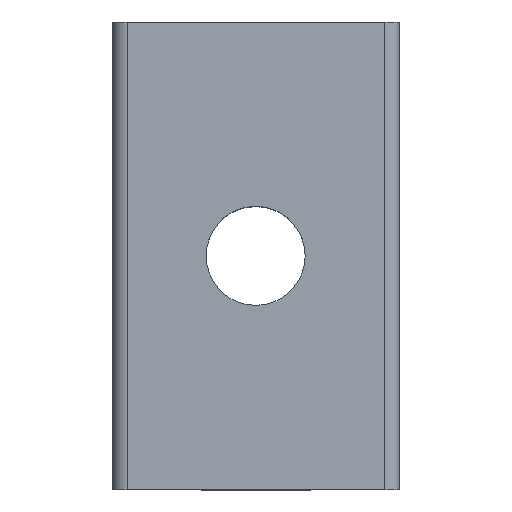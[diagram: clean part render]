
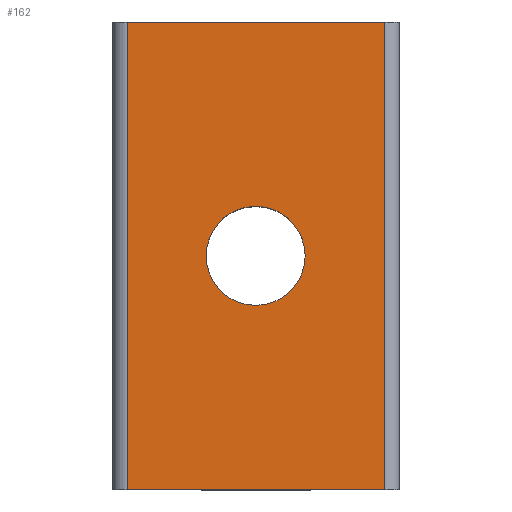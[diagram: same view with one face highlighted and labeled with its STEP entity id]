
A CAD part, top view. The second image highlights one B-rep face of the part: STEP entity #162.
In plain terms, the highlighted planar face has unit normal (0, 0, 1).
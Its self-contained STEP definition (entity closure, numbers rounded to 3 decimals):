
#17 = VECTOR ( 'NONE', #407, 1000. ) ;
#18 = DIRECTION ( 'NONE',  ( 0., 1., 0. ) ) ;
#19 = DIRECTION ( 'NONE',  ( 1., 0., 0. ) ) ;
#20 = DIRECTION ( 'NONE',  ( 0., 0., -1. ) ) ;
#27 = AXIS2_PLACEMENT_3D ( 'NONE', #212, #20, #255 ) ;
#28 = CARTESIAN_POINT ( 'NONE',  ( -4.288, 7.8, 0. ) ) ;
#30 = LINE ( 'NONE', #88, #206 ) ;
#31 = CARTESIAN_POINT ( 'NONE',  ( -1.662, 0., 0. ) ) ;
#46 = EDGE_LOOP ( 'NONE', ( #278, #424, #151, #283 ) ) ;
#50 = CARTESIAN_POINT ( 'NONE',  ( 1.638, 0., 0. ) ) ;
#59 = VERTEX_POINT ( 'NONE', #31 ) ;
#61 = VERTEX_POINT ( 'NONE', #28 ) ;
#88 = CARTESIAN_POINT ( 'NONE',  ( -4.288, -7.8, 0. ) ) ;
#90 = EDGE_LOOP ( 'NONE', ( #380, #313 ) ) ;
#91 = FACE_OUTER_BOUND ( 'NONE', #46, .T. ) ;
#99 = EDGE_CURVE ( 'NONE', #412, #111, #30, .T. ) ;
#101 = LINE ( 'NONE', #405, #287 ) ;
#102 = EDGE_CURVE ( 'NONE', #303, #61, #101, .T. ) ;
#107 = CARTESIAN_POINT ( 'NONE',  ( -0.012, 0., 0. ) ) ;
#111 = VERTEX_POINT ( 'NONE', #155 ) ;
#119 = EDGE_CURVE ( 'NONE', #412, #303, #297, .T. ) ;
#141 = DIRECTION ( 'NONE',  ( 1., 0., 0. ) ) ;
#151 = ORIENTED_EDGE ( 'NONE', *, *, #99, .F. ) ;
#155 = CARTESIAN_POINT ( 'NONE',  ( -4.288, -7.8, 0. ) ) ;
#159 = VECTOR ( 'NONE', #18, 1000. ) ;
#162 = ADVANCED_FACE ( 'NONE', ( #280, #91 ), #173, .F. ) ;
#173 = PLANE ( 'NONE',  #27 ) ;
#189 = CARTESIAN_POINT ( 'NONE',  ( 4.288, -7.8, 0. ) ) ;
#192 = VERTEX_POINT ( 'NONE', #50 ) ;
#202 = AXIS2_PLACEMENT_3D ( 'NONE', #107, #359, #141 ) ;
#206 = VECTOR ( 'NONE', #337, 1000. ) ;
#208 = CARTESIAN_POINT ( 'NONE',  ( 4.288, -7.8, 0. ) ) ;
#210 = DIRECTION ( 'NONE',  ( 0., 0., 1. ) ) ;
#212 = CARTESIAN_POINT ( 'NONE',  ( -4.288, -7.8, 0. ) ) ;
#223 = CARTESIAN_POINT ( 'NONE',  ( 4.288, 7.8, 0. ) ) ;
#231 = AXIS2_PLACEMENT_3D ( 'NONE', #434, #210, #19 ) ;
#255 = DIRECTION ( 'NONE',  ( -1., 0., 0. ) ) ;
#266 = CIRCLE ( 'NONE', #231, 1.65 ) ;
#278 = ORIENTED_EDGE ( 'NONE', *, *, #102, .T. ) ;
#280 = FACE_BOUND ( 'NONE', #90, .T. ) ;
#283 = ORIENTED_EDGE ( 'NONE', *, *, #119, .T. ) ;
#287 = VECTOR ( 'NONE', #371, 1000. ) ;
#297 = LINE ( 'NONE', #189, #17 ) ;
#303 = VERTEX_POINT ( 'NONE', #223 ) ;
#313 = ORIENTED_EDGE ( 'NONE', *, *, #449, .F. ) ;
#336 = CIRCLE ( 'NONE', #202, 1.65 ) ;
#337 = DIRECTION ( 'NONE',  ( -1., 0., 0. ) ) ;
#355 = CARTESIAN_POINT ( 'NONE',  ( -4.288, -7.8, 0. ) ) ;
#359 = DIRECTION ( 'NONE',  ( 0., 0., 1. ) ) ;
#366 = LINE ( 'NONE', #355, #159 ) ;
#371 = DIRECTION ( 'NONE',  ( -1., 0., 0. ) ) ;
#380 = ORIENTED_EDGE ( 'NONE', *, *, #415, .F. ) ;
#405 = CARTESIAN_POINT ( 'NONE',  ( -4.288, 7.8, 0. ) ) ;
#407 = DIRECTION ( 'NONE',  ( 0., 1., 0. ) ) ;
#411 = EDGE_CURVE ( 'NONE', #111, #61, #366, .T. ) ;
#412 = VERTEX_POINT ( 'NONE', #208 ) ;
#415 = EDGE_CURVE ( 'NONE', #192, #59, #266, .T. ) ;
#424 = ORIENTED_EDGE ( 'NONE', *, *, #411, .F. ) ;
#434 = CARTESIAN_POINT ( 'NONE',  ( -0.012, 0., 0. ) ) ;
#449 = EDGE_CURVE ( 'NONE', #59, #192, #336, .T. ) ;
